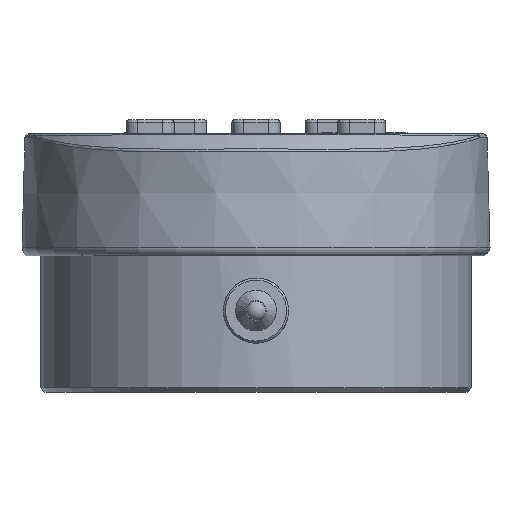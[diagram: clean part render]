
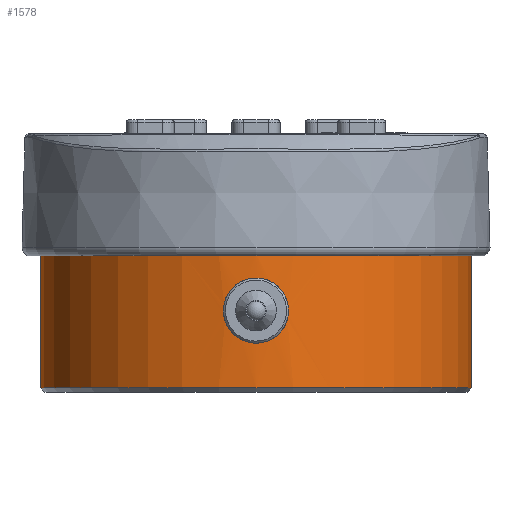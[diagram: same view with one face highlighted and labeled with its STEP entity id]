
A CAD part, front view. The second image highlights one B-rep face of the part: STEP entity #1578.
In plain terms, the highlighted cylindrical face has radius 26.4 mm (diameter 52.8 mm), a full revolution.
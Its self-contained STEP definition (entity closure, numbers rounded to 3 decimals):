
#1298=CYLINDRICAL_SURFACE('',#10458,26.4);
#1423=FACE_BOUND('',#2314,.T.);
#1424=FACE_BOUND('',#2315,.T.);
#1425=FACE_BOUND('',#2316,.T.);
#1426=FACE_BOUND('',#2317,.T.);
#1578=ADVANCED_FACE('NONE',(#1423,#1424,#1425,#1426),#1298,.T.);
#2314=EDGE_LOOP('',(#3098,#3099,#3100));
#2315=EDGE_LOOP('',(#3101));
#2316=EDGE_LOOP('',(#3102));
#2317=EDGE_LOOP('',(#3103,#3104));
#2765=CIRCLE('',#10456,26.4);
#2766=CIRCLE('',#10457,26.4);
#3098=ORIENTED_EDGE('',*,*,#6867,.T.);
#3099=ORIENTED_EDGE('',*,*,#6877,.T.);
#3100=ORIENTED_EDGE('',*,*,#6875,.T.);
#3101=ORIENTED_EDGE('',*,*,#6899,.T.);
#3102=ORIENTED_EDGE('',*,*,#6900,.T.);
#3103=ORIENTED_EDGE('',*,*,#6901,.F.);
#3104=ORIENTED_EDGE('',*,*,#6902,.F.);
#5470=VERTEX_POINT('',#12786);
#5471=VERTEX_POINT('',#12787);
#5478=VERTEX_POINT('',#12807);
#5496=VERTEX_POINT('',#12886);
#5497=VERTEX_POINT('',#12888);
#5498=VERTEX_POINT('',#12935);
#5499=VERTEX_POINT('',#12936);
#6867=EDGE_CURVE('',#5470,#5471,#8526,.T.);
#6875=EDGE_CURVE('',#5478,#5470,#8527,.T.);
#6877=EDGE_CURVE('',#5471,#5478,#8528,.T.);
#6899=EDGE_CURVE('',#5496,#5496,#2765,.T.);
#6900=EDGE_CURVE('',#5497,#5497,#2766,.T.);
#6901=EDGE_CURVE('',#5498,#5499,#8529,.T.);
#6902=EDGE_CURVE('',#5499,#5498,#8530,.T.);
#8526=B_SPLINE_CURVE_WITH_KNOTS('',3,(#12782,#12783,#12784,#12785),
 .UNSPECIFIED.,.F.,.F.,(4,4),(0.,1.),.UNSPECIFIED.);
#8527=B_SPLINE_CURVE_WITH_KNOTS('',3,(#12803,#12804,#12805,#12806),
 .UNSPECIFIED.,.F.,.F.,(4,4),(0.,1.),.UNSPECIFIED.);
#8528=B_SPLINE_CURVE_WITH_KNOTS('',3,(#12810,#12811,#12812,#12813,#12814,
#12815,#12816,#12817,#12818,#12819,#12820,#12821,#12822,#12823,#12824,#12825,
#12826,#12827),.UNSPECIFIED.,.F.,.F.,(4,2,2,2,2,2,2,2,4),(0.,0.125,0.25,
0.375,0.5,0.625,0.75,0.875,1.),.UNSPECIFIED.);
#8529=B_SPLINE_CURVE_WITH_KNOTS('',3,(#12889,#12890,#12891,#12892,#12893,
#12894,#12895,#12896,#12897,#12898,#12899,#12900,#12901,#12902,#12903,#12904,
#12905,#12906,#12907,#12908,#12909,#12910,#12911,#12912,#12913,#12914,#12915,
#12916,#12917,#12918,#12919,#12920,#12921,#12922,#12923,#12924,#12925,#12926,
#12927,#12928,#12929,#12930,#12931,#12932,#12933,#12934),.UNSPECIFIED.,
 .F.,.F.,(4,3,3,3,3,3,3,3,3,3,3,3,3,3,3,4),(0.,0.026,0.1,
0.174,0.247,0.321,0.395,
0.469,0.542,0.616,0.689,
0.705,0.779,0.853,0.927,
1.),.UNSPECIFIED.);
#8530=B_SPLINE_CURVE_WITH_KNOTS('',3,(#12937,#12938,#12939,#12940,#12941,
#12942,#12943,#12944,#12945,#12946),.UNSPECIFIED.,.F.,.F.,(4,2,2,2,4),(0.,
0.25,0.5,0.75,1.),.UNSPECIFIED.);
#10456=AXIS2_PLACEMENT_3D('',#12885,#11164,#11165);
#10457=AXIS2_PLACEMENT_3D('',#12887,#11166,#11167);
#10458=AXIS2_PLACEMENT_3D('',#12947,#11168,#11169);
#11164=DIRECTION('',(0.,0.,1.));
#11165=DIRECTION('',(1.,0.,0.));
#11166=DIRECTION('',(0.,0.,-1.));
#11167=DIRECTION('',(1.,0.,0.));
#11168=DIRECTION('',(0.,0.,1.));
#11169=DIRECTION('',(1.,0.,0.));
#12782=CARTESIAN_POINT('',(-59.544,21.758,-12.054));
#12783=CARTESIAN_POINT('',(-59.576,21.764,-11.949));
#12784=CARTESIAN_POINT('',(-59.611,21.77,-11.845));
#12785=CARTESIAN_POINT('',(-59.649,21.776,-11.743));
#12786=CARTESIAN_POINT('',(-59.544,21.758,-12.054));
#12787=CARTESIAN_POINT('',(-59.649,21.776,-11.743));
#12803=CARTESIAN_POINT('',(-59.649,21.776,-15.762));
#12804=CARTESIAN_POINT('',(-59.214,21.7,-14.582));
#12805=CARTESIAN_POINT('',(-59.176,21.691,-13.264));
#12806=CARTESIAN_POINT('',(-59.544,21.758,-12.054));
#12807=CARTESIAN_POINT('',(-59.649,21.776,-15.762));
#12810=CARTESIAN_POINT('',(-59.649,21.776,-11.743));
#12811=CARTESIAN_POINT('',(-60.11,21.858,-10.692));
#12812=CARTESIAN_POINT('',(-60.916,21.988,-9.835));
#12813=CARTESIAN_POINT('',(-62.952,22.165,-8.784));
#12814=CARTESIAN_POINT('',(-64.129,22.2,-8.624));
#12815=CARTESIAN_POINT('',(-66.373,22.113,-9.093));
#12816=CARTESIAN_POINT('',(-67.385,21.997,-9.712));
#12817=CARTESIAN_POINT('',(-68.825,21.783,-11.481));
#12818=CARTESIAN_POINT('',(-69.226,21.699,-12.613));
#12819=CARTESIAN_POINT('',(-69.227,21.699,-14.889));
#12820=CARTESIAN_POINT('',(-68.823,21.783,-16.025));
#12821=CARTESIAN_POINT('',(-67.393,21.996,-17.785));
#12822=CARTESIAN_POINT('',(-66.371,22.113,-18.411));
#12823=CARTESIAN_POINT('',(-64.143,22.2,-18.88));
#12824=CARTESIAN_POINT('',(-62.95,22.165,-18.719));
#12825=CARTESIAN_POINT('',(-60.926,21.989,-17.677));
#12826=CARTESIAN_POINT('',(-60.11,21.858,-16.813));
#12827=CARTESIAN_POINT('',(-59.649,21.776,-15.762));
#12885=CARTESIAN_POINT('',(-64.227,-4.224,-23.253));
#12886=CARTESIAN_POINT('',(-37.827,-4.224,-23.253));
#12887=CARTESIAN_POINT('',(-64.227,-4.224,-6.752));
#12888=CARTESIAN_POINT('',(-37.827,-4.224,-6.752));
#12889=CARTESIAN_POINT('',(-60.272,-30.326,-13.153));
#12890=CARTESIAN_POINT('',(-60.296,-30.329,-12.995));
#12891=CARTESIAN_POINT('',(-60.329,-30.334,-12.838));
#12892=CARTESIAN_POINT('',(-60.372,-30.341,-12.685));
#12893=CARTESIAN_POINT('',(-60.492,-30.358,-12.251));
#12894=CARTESIAN_POINT('',(-60.689,-30.387,-11.833));
#12895=CARTESIAN_POINT('',(-60.946,-30.419,-11.465));
#12896=CARTESIAN_POINT('',(-61.201,-30.451,-11.099));
#12897=CARTESIAN_POINT('',(-61.522,-30.487,-10.772));
#12898=CARTESIAN_POINT('',(-61.884,-30.519,-10.51));
#12899=CARTESIAN_POINT('',(-62.242,-30.551,-10.252));
#12900=CARTESIAN_POINT('',(-62.65,-30.58,-10.05));
#12901=CARTESIAN_POINT('',(-63.074,-30.598,-9.922));
#12902=CARTESIAN_POINT('',(-63.499,-30.617,-9.794));
#12903=CARTESIAN_POINT('',(-63.952,-30.626,-9.737));
#12904=CARTESIAN_POINT('',(-64.396,-30.623,-9.756));
#12905=CARTESIAN_POINT('',(-64.844,-30.62,-9.775));
#12906=CARTESIAN_POINT('',(-65.295,-30.605,-9.872));
#12907=CARTESIAN_POINT('',(-65.711,-30.582,-10.038));
#12908=CARTESIAN_POINT('',(-66.128,-30.558,-10.205));
#12909=CARTESIAN_POINT('',(-66.522,-30.526,-10.446));
#12910=CARTESIAN_POINT('',(-66.86,-30.492,-10.741));
#12911=CARTESIAN_POINT('',(-67.194,-30.458,-11.034));
#12912=CARTESIAN_POINT('',(-67.483,-30.423,-11.387));
#12913=CARTESIAN_POINT('',(-67.703,-30.394,-11.774));
#12914=CARTESIAN_POINT('',(-67.922,-30.365,-12.158));
#12915=CARTESIAN_POINT('',(-68.079,-30.341,-12.586));
#12916=CARTESIAN_POINT('',(-68.16,-30.329,-13.022));
#12917=CARTESIAN_POINT('',(-68.241,-30.317,-13.458));
#12918=CARTESIAN_POINT('',(-68.248,-30.316,-13.914));
#12919=CARTESIAN_POINT('',(-68.182,-30.326,-14.352));
#12920=CARTESIAN_POINT('',(-68.167,-30.328,-14.452));
#12921=CARTESIAN_POINT('',(-68.148,-30.331,-14.551));
#12922=CARTESIAN_POINT('',(-68.125,-30.334,-14.649));
#12923=CARTESIAN_POINT('',(-68.024,-30.349,-15.087));
#12924=CARTESIAN_POINT('',(-67.846,-30.375,-15.514));
#12925=CARTESIAN_POINT('',(-67.606,-30.406,-15.893));
#12926=CARTESIAN_POINT('',(-67.367,-30.437,-16.271));
#12927=CARTESIAN_POINT('',(-67.06,-30.474,-16.612));
#12928=CARTESIAN_POINT('',(-66.709,-30.507,-16.889));
#12929=CARTESIAN_POINT('',(-66.362,-30.539,-17.164));
#12930=CARTESIAN_POINT('',(-65.962,-30.57,-17.384));
#12931=CARTESIAN_POINT('',(-65.542,-30.591,-17.53));
#12932=CARTESIAN_POINT('',(-65.123,-30.612,-17.676));
#12933=CARTESIAN_POINT('',(-64.672,-30.624,-17.753));
#12934=CARTESIAN_POINT('',(-64.227,-30.624,-17.753));
#12935=CARTESIAN_POINT('',(-60.272,-30.326,-13.153));
#12936=CARTESIAN_POINT('',(-64.227,-30.624,-17.753));
#12937=CARTESIAN_POINT('',(-64.227,-30.623,-17.753));
#12938=CARTESIAN_POINT('',(-63.67,-30.623,-17.752));
#12939=CARTESIAN_POINT('',(-63.16,-30.607,-17.654));
#12940=CARTESIAN_POINT('',(-62.061,-30.54,-17.169));
#12941=CARTESIAN_POINT('',(-61.581,-30.496,-16.807));
#12942=CARTESIAN_POINT('',(-60.828,-30.407,-15.938));
#12943=CARTESIAN_POINT('',(-60.527,-30.361,-15.379));
#12944=CARTESIAN_POINT('',(-60.217,-30.318,-14.261));
#12945=CARTESIAN_POINT('',(-60.191,-30.313,-13.688));
#12946=CARTESIAN_POINT('',(-60.272,-30.326,-13.153));
#12947=CARTESIAN_POINT('',(-64.227,-4.224,-21.253));
